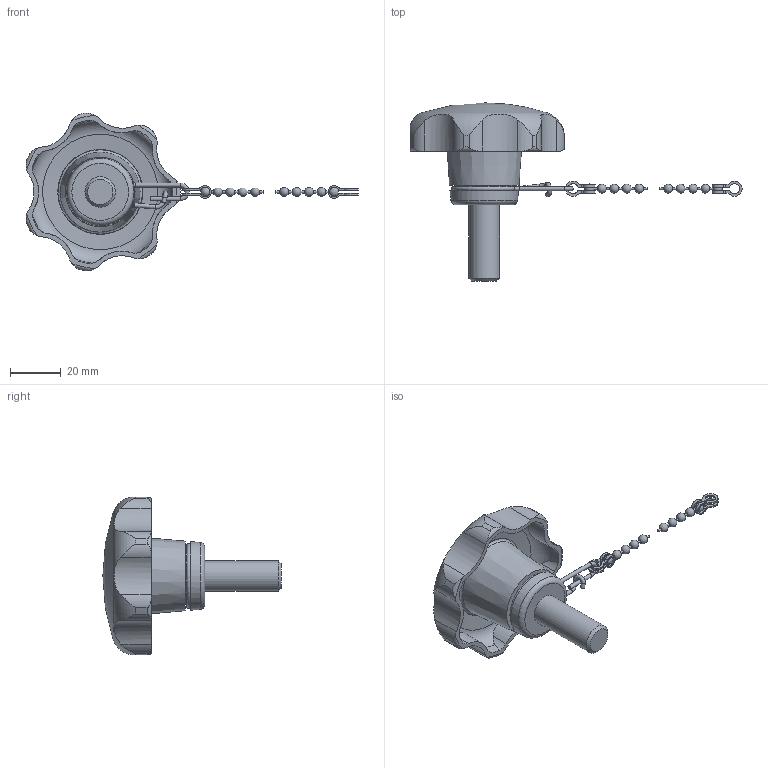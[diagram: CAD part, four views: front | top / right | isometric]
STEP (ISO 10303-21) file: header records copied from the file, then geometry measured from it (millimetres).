
FILE_DESCRIPTION( ( 'STEP AP203' ), '1' );
FILE_NAME( 'C:/Temp/Ganter_Step_05_03_2020/data/2_2/gn_6336_13/gn_6336_13_2/Star knob GN 6336.13-63-M12-30-K.stp', '2020-03-05T12:12:35', ( 'License CC BY-ND 4.0' ), ( 'CADENAS' ), ' ', 'PARTsolutions', ' ' );
FILE_SCHEMA( ( 'CONFIG_CONTROL_DESIGN' ) );
Length unit declared in the file: millimetre
Products named in the file (3): Star knob GN 6336.13-63-M12-30-K; _Star knob GN 6336.13-63-M12-30-K 6; _Star knob GN 111.5-200-14 k2
Assembly tree (2 placements, depth 2):
  Star knob GN 6336.13-63-M12-30-K
    _Star knob GN 6336.13-63-M12-30-K 6
    _Star knob GN 111.5-200-14 k2
Bounding box: 130.4 x 70 x 61.94 mm (x, y, z)
Volume: 44673.2 mm3; surface area: 14614.6 mm2
Topology: 2 solids, 2 shells, 170 faces, 485 edges, 313 vertices
Faces by surface type: cylinder 101, plane 29, torus 18, sphere 11, cone 11
Full cylindrical faces by diameter (mm): 0.9 x10, 1.6 x6, 12 x1, 22.3 x1
Entity records: 6346 total; most frequent: CARTESIAN_POINT 2071, DIRECTION 888, ORIENTED_EDGE 840, EDGE_CURVE 420, AXIS2_PLACEMENT_3D 381, VERTEX_POINT 300, EDGE_LOOP 221, CIRCLE 208
